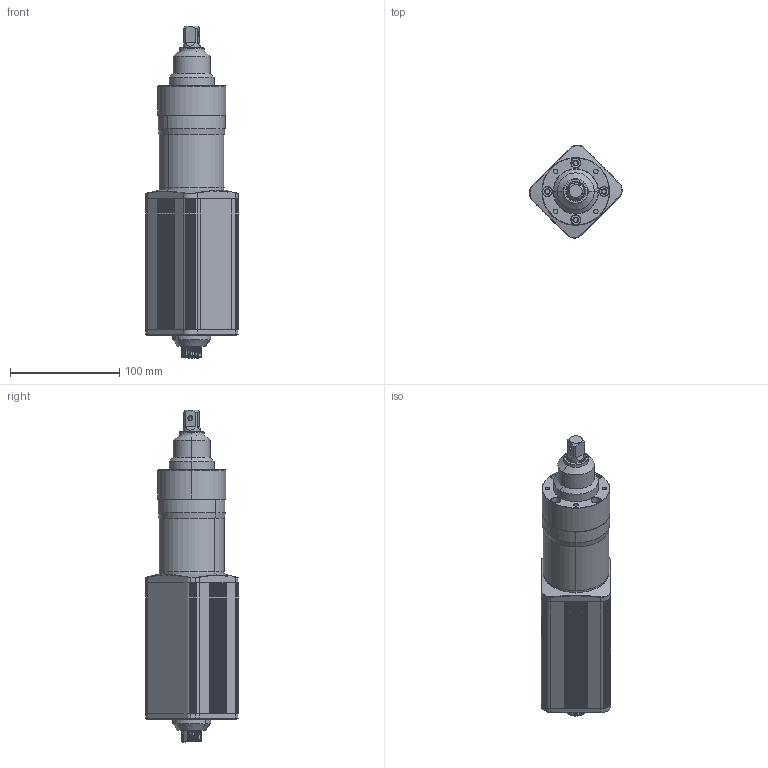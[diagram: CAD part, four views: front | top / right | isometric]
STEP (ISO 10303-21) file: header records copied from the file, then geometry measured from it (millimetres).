
FILE_DESCRIPTION (( 'STEP AP203' ), '1' );
FILE_NAME ('ZEDA-DE-MA12.7-5500 DE系列-低压高速智能电批.STEP', '2026-08-11T11:35:51', ( 'Windows User' ), ( 'P R C' ), 'SwSTEP 2.0', 'SolidWorks 2025', '' );
FILE_SCHEMA (( 'CONFIG_CONTROL_DESIGN' ));
Products named in the file (1): ZEDA-DE-MA12.7-5500 DE系列-低压高速智能电批
Bounding box: 84.52 x 84.52 x 304.35 mm (x, y, z)
Surface area: 77347.2 mm2 (no closed solid volume)
Topology: 0 solids, 19 shells, 487 faces, 1514 edges, 1041 vertices
Faces by surface type: cylinder 294, plane 83, cone 49, bspline 43, torus 18
Entity records: 33151 total; most frequent: CARTESIAN_POINT 19791, DIRECTION 2851, ORIENTED_EDGE 2741, EDGE_CURVE 1514, AXIS2_PLACEMENT_3D 1125, VERTEX_POINT 1041, CIRCLE 680, VECTOR 601
